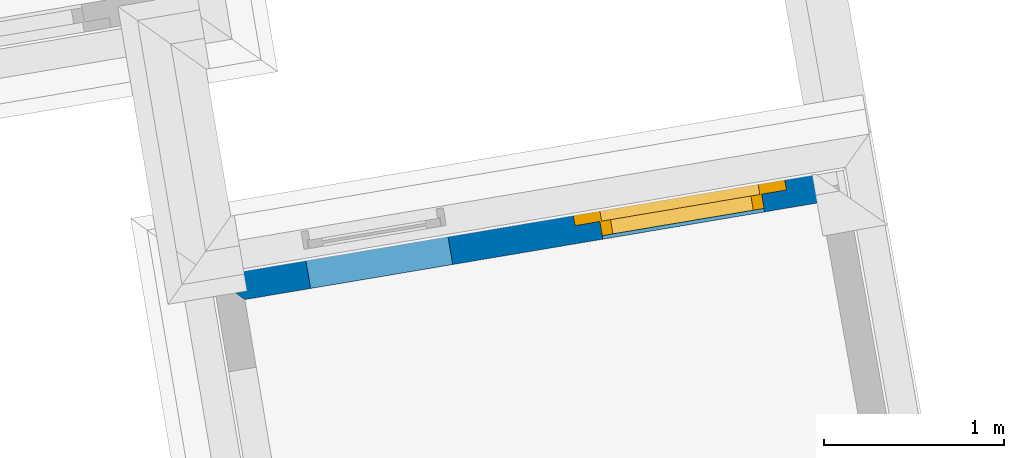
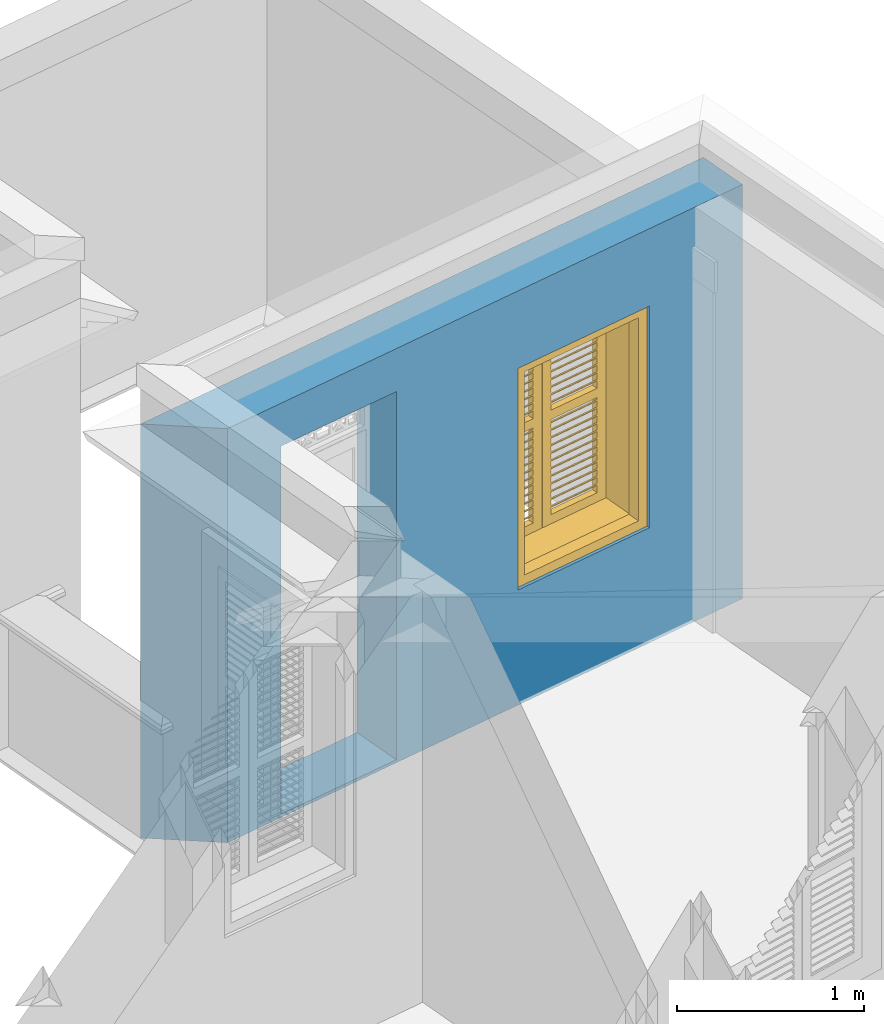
# One storey, part 7 of 12: 1 wall, 1 window, 2 openings.
"""IFC4 building model written with IfcOpenShell, lengths in metres."""

from ifc_helpers import new_model, si_unit, frame, origin, origin_with_axes, place, context, subcontext, project, spatial, polyline, outline, extrude, faceted_brep, source, transform, mapped, material, layer, layer_set, layer_usage, type_object, type_shapes, element, fill, save


model = new_model("IFC4")

# Units and contexts
model_context = context("Model", 3, world=origin_with_axes())
body_context = subcontext(model_context, "Body", "Model", "MODEL_VIEW")
ifc_project = project(units=[si_unit("PLANEANGLEUNIT", "RADIAN"), si_unit("MASSUNIT", "GRAM", prefix="KILO"), si_unit("FORCEUNIT", "NEWTON", prefix="KILO"), si_unit("LENGTHUNIT", "METRE"), si_unit("AREAUNIT", "SQUARE_METRE"), si_unit("VOLUMEUNIT", "CUBIC_METRE")], contexts=[model_context, model_context])

# Site, building, storey
site_placement = place(None, origin_with_axes())
site = spatial("IfcSite", under=ifc_project, at=site_placement, Name="Site plot-6", CompositionType="ELEMENT")
building_placement = place(None, origin_with_axes())
building = spatial("IfcBuilding", under=site, at=building_placement, Name="Building plot-6", CompositionType="ELEMENT")
storey_placement = place(None, frame((0.0, 0.0, 3.6), z_axis=(0.0, 0.0, 1.0), x_axis=(1.0, 0.0, 0.0)))
storey = spatial("IfcBuildingStorey", under=building, at=storey_placement, Name="plot-6 1", CompositionType="ELEMENT", Elevation=3.6)

# Wall, openings, window
ifc_material = material(Name="Masonry")
ifc_layer = layer(ifc_material, 0.33, ventilated=False)
ifc_layer_set = layer_set([ifc_layer], Name="exterior_0.08_0.25")
ifc_layer_usage = layer_usage(ifc_layer_set, "AXIS2", "POSITIVE", -0.25)
wall_type = type_object("IfcWallType", Name="exterior_0.08_0.25", PredefinedType="SOLIDWALL", material=ifc_layer_set)
wall_placement = place(storey_placement, frame((0.605406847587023, 2.3092461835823, 0.0), z_axis=(0.0, 0.0, 1.0), x_axis=(-0.986076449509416, -0.166292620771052, 0.0)))
wall = element("IfcWall", 1, at=wall_placement, inside=storey, type_object=wall_type, material=ifc_layer_usage, Name="exterior", context=body_context, shape_type="SweptSolid", body=[
    extrude(outline(polyline([(-0.25, 0.08), (-0.25, -0.25), (3.64941404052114, -0.25), (3.31941404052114, 0.0800000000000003), (-0.25, 0.08)])), origin_with_axes(), (0.0, 0.0, 1.0), 2.7),
])
opening_1_placement = place(wall_placement, frame((0.394853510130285, 0.0, 0.75)))
opening_1 = element("IfcOpeningElement", 2, at=opening_1_placement, cuts=wall, Name="My Opening", ObjectType="Opening", context=body_context, shape_type="SweptSolid", body=[
    extrude(outline(polyline([(0.0, -0.27), (0.91, -0.27), (0.91, 1.1), (-2.77555756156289e-16, 1.1), (0.0, -0.27)])), origin_with_axes(), (0.0, 0.0, 1.0), 1.445),
])
opening_2_placement = place(wall_placement, frame((2.14956053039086, 0.0, 0.02)))
element("IfcOpeningElement", 3, at=opening_2_placement, cuts=wall, Name="My Opening", ObjectType="Opening", context=body_context, shape_type="SweptSolid", body=[
    extrude(outline(polyline([(0.0, -0.27), (0.8, -0.269999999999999), (0.800000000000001, 1.1), (4.44089209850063e-16, 1.1), (0.0, -0.27)])), origin_with_axes(), (0.0, 0.0, 1.0), 2.4),
])
window_type = type_object("IfcWindowType", Name="shuttered_shorter", PartitioningType="DOUBLE_PANEL_HORIZONTAL", PredefinedType="NOTDEFINED")
shared_shape = source(origin(), body_context, "Body", "Brep", [
    faceted_brep([(0.393, 0.0, 0.622), (0.074, 0.0, 0.622), (0.074, 0.0, 0.632), (0.393, 0.0, 0.632), (0.074, -0.04, 0.592), (0.393, -0.04, 0.592), (0.393, -0.04, 0.582), (0.074, -0.04, 0.582), (0.517, 0.0, 0.682), (0.836, 0.0, 0.682), (0.836, 0.0, 0.672), (0.517, 0.0, 0.672), (0.517, -0.04, 0.642), (0.836, -0.04, 0.642), (0.836, -0.04, 0.632), (0.517, -0.04, 0.632), (0.517, 0.0, 0.632), (0.836, 0.0, 0.632), (0.836, 0.0, 0.622), (0.517, 0.0, 0.622), (0.517, -0.04, 0.592), (0.836, -0.04, 0.592), (0.836, -0.04, 0.582), (0.517, -0.04, 0.582), (0.517, 0.0, 0.232), (0.836, 0.0, 0.232), (0.836, 0.0, 0.222), (0.517, 0.0, 0.222), (0.517, -0.04, 0.192), (0.836, -0.04, 0.192), (0.836, -0.04, 0.182), (0.517, -0.04, 0.182), (0.517, 0.0, 0.532), (0.836, 0.0, 0.532), (0.836, 0.0, 0.522), (0.517, 0.0, 0.522), (0.517, -0.04, 0.492), (0.836, -0.04, 0.492), (0.836, -0.04, 0.482), (0.517, -0.04, 0.482), (0.517, 0.0, 0.482), (0.836, 0.0, 0.482), (0.836, 0.0, 0.472), (0.517, 0.0, 0.472), (0.517, -0.04, 0.442), (0.836, -0.04, 0.442), (0.836, -0.04, 0.432), (0.517, -0.04, 0.432), (0.517, 0.0, 0.582), (0.836, 0.0, 0.582), (0.836, 0.0, 0.572), (0.517, 0.0, 0.572), (0.517, -0.04, 0.542), (0.836, -0.04, 0.542), (0.836, -0.04, 0.532), (0.517, -0.04, 0.532), (0.517, 0.0, 0.182), (0.836, 0.0, 0.182), (0.836, 0.0, 0.172), (0.517, 0.0, 0.172), (0.517, -0.04, 0.142), (0.836, -0.04, 0.142), (0.836, -0.04, 0.132), (0.517, -0.04, 0.132), (0.517, 0.0, 0.382), (0.836, 0.0, 0.382), (0.836, 0.0, 0.372), (0.517, 0.0, 0.372), (0.517, -0.04, 0.342), (0.836, -0.04, 0.342), (0.836, -0.04, 0.332), (0.517, -0.04, 0.332), (0.517, 0.0, 0.432), (0.836, 0.0, 0.432), (0.836, 0.0, 0.422), (0.517, 0.0, 0.422), (0.517, -0.04, 0.392), (0.836, -0.04, 0.392), (0.836, -0.04, 0.382), (0.517, -0.04, 0.382), (0.517, 0.0, 0.132), (0.836, 0.0, 0.132), (0.836, 0.0, 0.122), (0.517, 0.0, 0.122), (0.517, -0.04, 0.092), (0.836, -0.04, 0.092), (0.836, -0.04, 0.082), (0.517, -0.04, 0.082), (0.517, 0.0, 0.282), (0.836, 0.0, 0.282), (0.836, 0.0, 0.272), (0.517, 0.0, 0.272), (0.517, -0.04, 0.242), (0.836, -0.04, 0.242), (0.836, -0.04, 0.232), (0.517, -0.04, 0.232), (0.517, 0.0, 0.332), (0.836, 0.0, 0.332), (0.836, 0.0, 0.322), (0.517, 0.0, 0.322), (0.517, -0.04, 0.292), (0.836, -0.04, 0.292), (0.836, -0.04, 0.282), (0.517, -0.04, 0.282), (0.517, 0.0, 1.362667), (0.836, 0.0, 1.362667), (0.836, 0.0, 1.352667), (0.517, 0.0, 1.352667), (0.517, -0.04, 1.322667), (0.836, -0.04, 1.322667), (0.836, -0.04, 1.312667), (0.517, -0.04, 1.312667), (0.517, 0.0, 1.312667), (0.836, 0.0, 1.312667), (0.836, 0.0, 1.302667), (0.517, 0.0, 1.302667), (0.517, -0.04, 1.272667), (0.836, -0.04, 1.272667), (0.836, -0.04, 1.262667), (0.517, -0.04, 1.262667), (0.517, 0.0, 0.912667), (0.836, 0.0, 0.912667), (0.836, 0.0, 0.902667), (0.517, 0.0, 0.902667), (0.517, -0.04, 0.872667), (0.836, -0.04, 0.872667), (0.836, -0.04, 0.862667), (0.517, -0.04, 0.862667), (0.517, 0.0, 1.212667), (0.836, 0.0, 1.212667), (0.836, 0.0, 1.202667), (0.517, 0.0, 1.202667), (0.517, -0.04, 1.172667), (0.836, -0.04, 1.172667), (0.836, -0.04, 1.162667), (0.517, -0.04, 1.162667), (0.517, 0.0, 1.162667), (0.836, 0.0, 1.162667), (0.836, 0.0, 1.152667), (0.517, 0.0, 1.152667), (0.517, -0.04, 1.122667), (0.836, -0.04, 1.122667), (0.836, -0.04, 1.112667), (0.517, -0.04, 1.112667), (0.517, 0.0, 1.262667), (0.836, 0.0, 1.262667), (0.836, 0.0, 1.252667), (0.517, 0.0, 1.252667), (0.517, -0.04, 1.222667), (0.836, -0.04, 1.222667), (0.836, -0.04, 1.212667), (0.517, -0.04, 1.212667), (0.517, 0.0, 0.862667), (0.836, 0.0, 0.862667), (0.836, 0.0, 0.852667), (0.517, 0.0, 0.852667), (0.517, -0.04, 0.822667), (0.836, -0.04, 0.822667), (0.836, -0.04, 0.812667), (0.517, -0.04, 0.812667), (0.517, 0.0, 1.062667), (0.836, 0.0, 1.062667), (0.836, 0.0, 1.052667), (0.517, 0.0, 1.052667), (0.517, -0.04, 1.022667), (0.836, -0.04, 1.022667), (0.836, -0.04, 1.012667), (0.517, -0.04, 1.012667), (0.517, 0.0, 1.112667), (0.836, 0.0, 1.112667), (0.836, 0.0, 1.102667), (0.517, 0.0, 1.102667), (0.517, -0.04, 1.072667), (0.836, -0.04, 1.072667), (0.836, -0.04, 1.062667), (0.517, -0.04, 1.062667), (0.517, 0.0, 0.812667), (0.836, 0.0, 0.812667), (0.836, 0.0, 0.802667), (0.517, 0.0, 0.802667), (0.517, -0.04, 0.772667), (0.836, -0.04, 0.772667), (0.836, -0.04, 0.762667), (0.517, -0.04, 0.762667), (0.517, 0.0, 0.962667), (0.836, 0.0, 0.962667), (0.836, 0.0, 0.952667), (0.517, 0.0, 0.952667), (0.517, -0.04, 0.922667), (0.836, -0.04, 0.922667), (0.836, -0.04, 0.912667), (0.517, -0.04, 0.912667), (0.517, 0.0, 1.012667), (0.836, 0.0, 1.012667), (0.836, 0.0, 1.002667), (0.517, 0.0, 1.002667), (0.517, -0.04, 0.972667), (0.836, -0.04, 0.972667), (0.836, -0.04, 0.962667), (0.517, -0.04, 0.962667), (0.074, 0.0, 0.682), (0.393, 0.0, 0.682), (0.393, 0.0, 0.672), (0.074, 0.0, 0.672), (0.074, -0.04, 0.642), (0.393, -0.04, 0.642), (0.393, -0.04, 0.632), (0.074, -0.04, 0.632), (0.074, 0.0, 0.232), (0.393, 0.0, 0.232), (0.393, 0.0, 0.222), (0.074, 0.0, 0.222), (0.074, -0.04, 0.192), (0.393, -0.04, 0.192), (0.393, -0.04, 0.182), (0.074, -0.04, 0.182), (0.074, 0.0, 0.532), (0.393, 0.0, 0.532), (0.393, 0.0, 0.522), (0.074, 0.0, 0.522), (0.074, -0.04, 0.492), (0.393, -0.04, 0.492), (0.393, -0.04, 0.482), (0.074, -0.04, 0.482), (0.074, 0.0, 0.482), (0.393, 0.0, 0.482), (0.393, 0.0, 0.472), (0.074, 0.0, 0.472), (0.074, -0.04, 0.442), (0.393, -0.04, 0.442), (0.393, -0.04, 0.432), (0.074, -0.04, 0.432), (0.074, 0.0, 0.582), (0.393, 0.0, 0.582), (0.393, 0.0, 0.572), (0.074, 0.0, 0.572), (0.074, -0.04, 0.542), (0.393, -0.04, 0.542), (0.393, -0.04, 0.532), (0.074, -0.04, 0.532), (0.074, 0.0, 0.182), (0.393, 0.0, 0.182), (0.393, 0.0, 0.172), (0.074, 0.0, 0.172), (0.074, -0.04, 0.142), (0.393, -0.04, 0.142), (0.393, -0.04, 0.132), (0.074, -0.04, 0.132), (0.074, 0.0, 0.382), (0.393, 0.0, 0.382), (0.393, 0.0, 0.372), (0.074, 0.0, 0.372), (0.074, -0.04, 0.342), (0.393, -0.04, 0.342), (0.393, -0.04, 0.332), (0.074, -0.04, 0.332), (0.074, 0.0, 0.432), (0.393, 0.0, 0.432), (0.393, 0.0, 0.422), (0.074, 0.0, 0.422), (0.074, -0.04, 0.392), (0.393, -0.04, 0.392), (0.393, -0.04, 0.382), (0.074, -0.04, 0.382), (0.074, 0.0, 0.132), (0.393, 0.0, 0.132), (0.393, 0.0, 0.122), (0.074, 0.0, 0.122), (0.074, -0.04, 0.092), (0.393, -0.04, 0.092), (0.393, -0.04, 0.082), (0.074, -0.04, 0.082), (0.074, 0.0, 0.282), (0.393, 0.0, 0.282), (0.393, 0.0, 0.272), (0.074, 0.0, 0.272), (0.074, -0.04, 0.242), (0.393, -0.04, 0.242), (0.393, -0.04, 0.232), (0.074, -0.04, 0.232), (0.074, 0.0, 0.332), (0.393, 0.0, 0.332), (0.393, 0.0, 0.322), (0.074, 0.0, 0.322), (0.074, -0.04, 0.292), (0.393, -0.04, 0.292), (0.393, -0.04, 0.282), (0.074, -0.04, 0.282), (0.074, 0.0, 1.362667), (0.393, 0.0, 1.362667), (0.393, 0.0, 1.352667), (0.074, 0.0, 1.352667), (0.074, -0.04, 1.322667), (0.393, -0.04, 1.322667), (0.393, -0.04, 1.312667), (0.074, -0.04, 1.312667), (0.074, 0.0, 1.312667), (0.393, 0.0, 1.312667), (0.393, 0.0, 1.302667), (0.074, 0.0, 1.302667), (0.074, -0.04, 1.272667), (0.393, -0.04, 1.272667), (0.393, -0.04, 1.262667), (0.074, -0.04, 1.262667), (0.074, 0.0, 0.912667), (0.393, 0.0, 0.912667), (0.393, 0.0, 0.902667), (0.074, 0.0, 0.902667), (0.074, -0.04, 0.872667), (0.393, -0.04, 0.872667), (0.393, -0.04, 0.862667), (0.074, -0.04, 0.862667), (0.074, 0.0, 1.212667), (0.393, 0.0, 1.212667), (0.393, 0.0, 1.202667), (0.074, 0.0, 1.202667), (0.074, -0.04, 1.172667), (0.393, -0.04, 1.172667), (0.393, -0.04, 1.162667), (0.074, -0.04, 1.162667), (0.074, 0.0, 1.162667), (0.393, 0.0, 1.162667), (0.393, 0.0, 1.152667), (0.074, 0.0, 1.152667), (0.074, -0.04, 1.122667), (0.393, -0.04, 1.122667), (0.393, -0.04, 1.112667), (0.074, -0.04, 1.112667), (0.074, 0.0, 1.262667), (0.393, 0.0, 1.262667), (0.393, 0.0, 1.252667), (0.074, 0.0, 1.252667), (0.074, -0.04, 1.222667), (0.393, -0.04, 1.222667), (0.393, -0.04, 1.212667), (0.074, -0.04, 1.212667), (0.074, 0.0, 0.862667), (0.393, 0.0, 0.862667), (0.393, 0.0, 0.852667), (0.074, 0.0, 0.852667), (0.074, -0.04, 0.822667), (0.393, -0.04, 0.822667), (0.393, -0.04, 0.812667), (0.074, -0.04, 0.812667), (0.074, 0.0, 1.062667), (0.393, 0.0, 1.062667), (0.393, 0.0, 1.052667), (0.074, 0.0, 1.052667), (0.074, -0.04, 1.022667), (0.393, -0.04, 1.022667), (0.393, -0.04, 1.012667), (0.074, -0.04, 1.012667), (0.074, 0.0, 1.112667), (0.393, 0.0, 1.112667), (0.393, 0.0, 1.102667), (0.074, 0.0, 1.102667), (0.074, -0.04, 1.072667), (0.393, -0.04, 1.072667), (0.393, -0.04, 1.062667), (0.074, -0.04, 1.062667), (0.074, 0.0, 0.812667), (0.393, 0.0, 0.812667), (0.393, 0.0, 0.802667), (0.074, 0.0, 0.802667), (0.074, -0.04, 0.772667), (0.393, -0.04, 0.772667), (0.393, -0.04, 0.762667), (0.074, -0.04, 0.762667), (0.074, 0.0, 0.962667), (0.393, 0.0, 0.962667), (0.393, 0.0, 0.952667), (0.074, 0.0, 0.952667), (0.074, -0.04, 0.922667), (0.393, -0.04, 0.922667), (0.393, -0.04, 0.912667), (0.074, -0.04, 0.912667), (0.074, 0.0, 1.012667), (0.393, 0.0, 1.012667), (0.393, 0.0, 1.002667), (0.074, 0.0, 1.002667), (0.074, -0.04, 0.972667), (0.393, -0.04, 0.972667), (0.393, -0.04, 0.962667), (0.074, -0.04, 0.962667), (0.517, -0.04, 0.072), (0.457, -0.04, 0.012), (0.896, -0.04, 0.012), (0.836, -0.04, 0.072), (0.457, -0.04, 0.692667), (0.517, -0.04, 0.692667), (0.457, 0.0, 0.012), (0.896, 0.0, 0.012), (0.836, -0.04, 0.692667), (0.896, -0.04, 0.692667), (0.836, 0.0, 0.072), (0.517, 0.0, 0.072), (0.457, 0.0, 0.692667), (0.517, 0.0, 0.692667), (0.517, -0.04, 0.752666), (0.457, -0.04, 0.752666), (0.896, 0.0, 0.692667), (0.836, 0.0, 0.692667), (0.836, -0.04, 0.752666), (0.896, -0.04, 0.752666), (0.457, 0.0, 0.752666), (0.457, -0.04, 1.433333), (0.517, -0.04, 1.373333), (0.896, 0.0, 0.752666), (0.836, -0.04, 1.373333), (0.896, -0.04, 1.433333), (0.457, 0.0, 1.433333), (0.517, 0.0, 0.752666), (0.836, 0.0, 0.752666), (0.517, 0.0, 1.373333), (0.896, 0.0, 1.433333), (0.836, 0.0, 1.373333), (0.074, -0.04, 0.072), (0.014, -0.04, 0.012), (0.453, -0.04, 0.012), (0.393, -0.04, 0.072), (0.014, -0.04, 0.692667), (0.074, -0.04, 0.692667), (0.014, 0.0, 0.012), (0.453, 0.0, 0.012), (0.393, -0.04, 0.692667), (0.453, -0.04, 0.692667), (0.393, 0.0, 0.072), (0.074, 0.0, 0.072), (0.014, 0.0, 0.692667), (0.074, 0.0, 0.692667), (0.074, -0.04, 0.752666), (0.014, -0.04, 0.752666), (0.453, 0.0, 0.692667), (0.393, 0.0, 0.692667), (0.393, -0.04, 0.752666), (0.453, -0.04, 0.752666), (0.014, 0.0, 0.752666), (0.014, -0.04, 1.433333), (0.074, -0.04, 1.373333), (0.453, 0.0, 0.752666), (0.393, -0.04, 1.373333), (0.453, -0.04, 1.433333), (0.014, 0.0, 1.433333), (0.074, 0.0, 0.752666), (0.393, 0.0, 0.752666), (0.074, 0.0, 1.373333), (0.453, 0.0, 1.433333), (0.393, 0.0, 1.373333), (0.0, 0.33, 1.445), (0.91, 0.33, 1.445), (0.85, 0.33, 1.385), (0.06, 0.33, 1.385), (0.91, 0.25, 1.445), (0.0, 0.25, 1.445), (0.91, 0.25, 1.445), (0.85, 0.33, 0.06), (0.91, 0.33, 0.0), (0.85, 0.25, 1.385), (0.06, 0.25, 1.385), (0.0, 0.33, 0.0), (0.06, 0.33, 0.06), (0.0, 0.25, 0.0), (0.91, 0.25, 0.0), (0.85, 0.25, 0.06), (0.06, 0.25, 0.06), (1.05, 0.25, 1.585), (-0.14, 0.25, 1.585), (-0.14, -0.03, 1.585), (1.05, -0.03, 1.585), (0.9, -0.03, 1.435), (0.01, -0.03, 1.435), (0.01, 0.25, 1.435), (0.9, 0.25, 1.435), (0.9, 0.25, 0.01), (0.9, -0.03, 0.01), (1.05, -0.03, -0.14), (1.05, 0.25, -0.14), (0.01, -0.03, 0.01), (0.01, 0.25, 0.01), (-0.14, -0.03, -0.14), (-0.14, 0.25, -0.14)], [[[0, 1, 2, 3]], [[4, 5, 3, 2]], [[5, 6, 0, 3]], [[1, 0, 6, 7]], [[2, 1, 7, 4]], [[5, 4, 7, 6]], [[8, 9, 10, 11]], [[12, 13, 9, 8]], [[13, 14, 10, 9]], [[14, 15, 11, 10]], [[15, 12, 8, 11]], [[13, 12, 15, 14]], [[16, 17, 18, 19]], [[20, 21, 17, 16]], [[21, 22, 18, 17]], [[22, 23, 19, 18]], [[23, 20, 16, 19]], [[21, 20, 23, 22]], [[24, 25, 26, 27]], [[28, 29, 25, 24]], [[29, 30, 26, 25]], [[30, 31, 27, 26]], [[31, 28, 24, 27]], [[29, 28, 31, 30]], [[32, 33, 34, 35]], [[36, 37, 33, 32]], [[37, 38, 34, 33]], [[38, 39, 35, 34]], [[39, 36, 32, 35]], [[37, 36, 39, 38]], [[40, 41, 42, 43]], [[44, 45, 41, 40]], [[45, 46, 42, 41]], [[46, 47, 43, 42]], [[47, 44, 40, 43]], [[45, 44, 47, 46]], [[48, 49, 50, 51]], [[52, 53, 49, 48]], [[53, 54, 50, 49]], [[54, 55, 51, 50]], [[55, 52, 48, 51]], [[53, 52, 55, 54]], [[56, 57, 58, 59]], [[60, 61, 57, 56]], [[61, 62, 58, 57]], [[62, 63, 59, 58]], [[63, 60, 56, 59]], [[61, 60, 63, 62]], [[64, 65, 66, 67]], [[68, 69, 65, 64]], [[69, 70, 66, 65]], [[70, 71, 67, 66]], [[71, 68, 64, 67]], [[69, 68, 71, 70]], [[72, 73, 74, 75]], [[76, 77, 73, 72]], [[77, 78, 74, 73]], [[78, 79, 75, 74]], [[79, 76, 72, 75]], [[77, 76, 79, 78]], [[80, 81, 82, 83]], [[84, 85, 81, 80]], [[85, 86, 82, 81]], [[86, 87, 83, 82]], [[87, 84, 80, 83]], [[85, 84, 87, 86]], [[88, 89, 90, 91]], [[92, 93, 89, 88]], [[93, 94, 90, 89]], [[94, 95, 91, 90]], [[95, 92, 88, 91]], [[93, 92, 95, 94]], [[96, 97, 98, 99]], [[100, 101, 97, 96]], [[101, 102, 98, 97]], [[102, 103, 99, 98]], [[103, 100, 96, 99]], [[101, 100, 103, 102]], [[104, 105, 106, 107]], [[108, 109, 105, 104]], [[109, 110, 106, 105]], [[110, 111, 107, 106]], [[111, 108, 104, 107]], [[109, 108, 111, 110]], [[112, 113, 114, 115]], [[116, 117, 113, 112]], [[117, 118, 114, 113]], [[118, 119, 115, 114]], [[119, 116, 112, 115]], [[117, 116, 119, 118]], [[120, 121, 122, 123]], [[124, 125, 121, 120]], [[125, 126, 122, 121]], [[126, 127, 123, 122]], [[127, 124, 120, 123]], [[125, 124, 127, 126]], [[128, 129, 130, 131]], [[132, 133, 129, 128]], [[133, 134, 130, 129]], [[134, 135, 131, 130]], [[135, 132, 128, 131]], [[133, 132, 135, 134]], [[136, 137, 138, 139]], [[140, 141, 137, 136]], [[141, 142, 138, 137]], [[142, 143, 139, 138]], [[139, 143, 140, 136]], [[141, 140, 143, 142]], [[144, 145, 146, 147]], [[148, 149, 145, 144]], [[149, 150, 146, 145]], [[150, 151, 147, 146]], [[151, 148, 144, 147]], [[149, 148, 151, 150]], [[152, 153, 154, 155]], [[156, 157, 153, 152]], [[157, 158, 154, 153]], [[158, 159, 155, 154]], [[159, 156, 152, 155]], [[157, 156, 159, 158]], [[160, 161, 162, 163]], [[164, 165, 161, 160]], [[165, 166, 162, 161]], [[166, 167, 163, 162]], [[167, 164, 160, 163]], [[165, 164, 167, 166]], [[168, 169, 170, 171]], [[172, 173, 169, 168]], [[173, 174, 170, 169]], [[174, 175, 171, 170]], [[175, 172, 168, 171]], [[173, 172, 175, 174]], [[176, 177, 178, 179]], [[180, 181, 177, 176]], [[181, 182, 178, 177]], [[182, 183, 179, 178]], [[183, 180, 176, 179]], [[181, 180, 183, 182]], [[184, 185, 186, 187]], [[188, 189, 185, 184]], [[189, 190, 186, 185]], [[190, 191, 187, 186]], [[191, 188, 184, 187]], [[189, 188, 191, 190]], [[192, 193, 194, 195]], [[196, 197, 193, 192]], [[197, 198, 194, 193]], [[198, 199, 195, 194]], [[199, 196, 192, 195]], [[197, 196, 199, 198]], [[200, 201, 202, 203]], [[204, 205, 201, 200]], [[205, 206, 202, 201]], [[206, 207, 203, 202]], [[207, 204, 200, 203]], [[205, 204, 207, 206]], [[208, 209, 210, 211]], [[212, 213, 209, 208]], [[213, 214, 210, 209]], [[214, 215, 211, 210]], [[215, 212, 208, 211]], [[213, 212, 215, 214]], [[216, 217, 218, 219]], [[220, 221, 217, 216]], [[221, 222, 218, 217]], [[222, 223, 219, 218]], [[223, 220, 216, 219]], [[221, 220, 223, 222]], [[224, 225, 226, 227]], [[228, 229, 225, 224]], [[229, 230, 226, 225]], [[230, 231, 227, 226]], [[231, 228, 224, 227]], [[229, 228, 231, 230]], [[232, 233, 234, 235]], [[236, 237, 233, 232]], [[237, 238, 234, 233]], [[238, 239, 235, 234]], [[239, 236, 232, 235]], [[237, 236, 239, 238]], [[240, 241, 242, 243]], [[244, 245, 241, 240]], [[245, 246, 242, 241]], [[246, 247, 243, 242]], [[247, 244, 240, 243]], [[245, 244, 247, 246]], [[248, 249, 250, 251]], [[252, 253, 249, 248]], [[253, 254, 250, 249]], [[254, 255, 251, 250]], [[255, 252, 248, 251]], [[253, 252, 255, 254]], [[256, 257, 258, 259]], [[260, 261, 257, 256]], [[261, 262, 258, 257]], [[262, 263, 259, 258]], [[263, 260, 256, 259]], [[261, 260, 263, 262]], [[264, 265, 266, 267]], [[268, 269, 265, 264]], [[269, 270, 266, 265]], [[270, 271, 267, 266]], [[271, 268, 264, 267]], [[269, 268, 271, 270]], [[272, 273, 274, 275]], [[276, 277, 273, 272]], [[277, 278, 274, 273]], [[278, 279, 275, 274]], [[279, 276, 272, 275]], [[277, 276, 279, 278]], [[280, 281, 282, 283]], [[284, 285, 281, 280]], [[285, 286, 282, 281]], [[286, 287, 283, 282]], [[287, 284, 280, 283]], [[285, 284, 287, 286]], [[288, 289, 290, 291]], [[292, 293, 289, 288]], [[293, 294, 290, 289]], [[294, 295, 291, 290]], [[295, 292, 288, 291]], [[293, 292, 295, 294]], [[296, 297, 298, 299]], [[300, 301, 297, 296]], [[301, 302, 298, 297]], [[302, 303, 299, 298]], [[303, 300, 296, 299]], [[301, 300, 303, 302]], [[304, 305, 306, 307]], [[308, 309, 305, 304]], [[309, 310, 306, 305]], [[310, 311, 307, 306]], [[311, 308, 304, 307]], [[309, 308, 311, 310]], [[312, 313, 314, 315]], [[316, 317, 313, 312]], [[317, 318, 314, 313]], [[318, 319, 315, 314]], [[319, 316, 312, 315]], [[317, 316, 319, 318]], [[320, 321, 322, 323]], [[324, 325, 321, 320]], [[325, 326, 322, 321]], [[326, 327, 323, 322]], [[327, 324, 320, 323]], [[325, 324, 327, 326]], [[328, 329, 330, 331]], [[332, 333, 329, 328]], [[333, 334, 330, 329]], [[334, 335, 331, 330]], [[335, 332, 328, 331]], [[333, 332, 335, 334]], [[336, 337, 338, 339]], [[340, 341, 337, 336]], [[341, 342, 338, 337]], [[342, 343, 339, 338]], [[343, 340, 336, 339]], [[341, 340, 343, 342]], [[344, 345, 346, 347]], [[348, 349, 345, 344]], [[349, 350, 346, 345]], [[350, 351, 347, 346]], [[351, 348, 344, 347]], [[349, 348, 351, 350]], [[352, 353, 354, 355]], [[356, 357, 353, 352]], [[357, 358, 354, 353]], [[358, 359, 355, 354]], [[359, 356, 352, 355]], [[357, 356, 359, 358]], [[360, 361, 362, 363]], [[364, 365, 361, 360]], [[365, 366, 362, 361]], [[366, 367, 363, 362]], [[367, 364, 360, 363]], [[365, 364, 367, 366]], [[368, 369, 370, 371]], [[372, 373, 369, 368]], [[373, 374, 370, 369]], [[374, 375, 371, 370]], [[375, 372, 368, 371]], [[373, 372, 375, 374]], [[376, 377, 378, 379]], [[380, 381, 377, 376]], [[381, 382, 378, 377]], [[382, 383, 379, 378]], [[383, 380, 376, 379]], [[381, 380, 383, 382]], [[384, 385, 386, 387]], [[388, 385, 384, 389]], [[390, 391, 386, 385]], [[392, 387, 386, 393]], [[384, 387, 394, 395]], [[390, 385, 388, 396]], [[389, 384, 395, 397]], [[389, 398, 399, 388]], [[390, 395, 394, 391]], [[400, 393, 386, 391]], [[387, 392, 401, 394]], [[402, 392, 393, 403]], [[396, 388, 399, 404]], [[390, 396, 397, 395]], [[392, 389, 397, 401]], [[398, 389, 392, 402]], [[405, 399, 398, 406]], [[394, 401, 400, 391]], [[407, 403, 393, 400]], [[408, 402, 403, 409]], [[404, 399, 405, 410]], [[411, 397, 396, 404]], [[397, 411, 412, 401]], [[398, 402, 412, 411]], [[406, 398, 411, 413]], [[405, 406, 408, 409]], [[401, 412, 407, 400]], [[414, 409, 403, 407]], [[402, 408, 415, 412]], [[405, 409, 414, 410]], [[404, 410, 413, 411]], [[408, 406, 413, 415]], [[412, 415, 414, 407]], [[413, 410, 414, 415]], [[416, 417, 418, 419]], [[420, 417, 416, 421]], [[422, 423, 418, 417]], [[424, 419, 418, 425]], [[416, 419, 426, 427]], [[422, 417, 420, 428]], [[421, 416, 427, 429]], [[421, 430, 431, 420]], [[422, 427, 426, 423]], [[432, 425, 418, 423]], [[419, 424, 433, 426]], [[434, 424, 425, 435]], [[428, 420, 431, 436]], [[422, 428, 429, 427]], [[424, 421, 429, 433]], [[430, 421, 424, 434]], [[437, 431, 430, 438]], [[426, 433, 432, 423]], [[439, 435, 425, 432]], [[440, 434, 435, 441]], [[436, 431, 437, 442]], [[443, 429, 428, 436]], [[429, 443, 444, 433]], [[430, 434, 444, 443]], [[438, 430, 443, 445]], [[437, 438, 440, 441]], [[433, 444, 439, 432]], [[446, 441, 435, 439]], [[434, 440, 447, 444]], [[437, 441, 446, 442]], [[436, 442, 445, 443]], [[440, 438, 445, 447]], [[444, 447, 446, 439]], [[445, 442, 446, 447]], [[448, 449, 450, 451]], [[452, 449, 448]], [[448, 453, 454]], [[448, 454, 452]], [[455, 450, 449, 456]], [[451, 450, 457, 458]], [[459, 448, 451, 460]], [[448, 459, 461, 453]], [[454, 453, 458, 457]], [[462, 452, 454]], [[454, 457, 463]], [[454, 463, 462]], [[456, 449, 452, 462]], [[450, 455, 463, 457]], [[456, 459, 460, 455]], [[460, 451, 458, 464]], [[459, 456, 462, 461]], [[464, 458, 453, 461]], [[461, 462, 463, 464]], [[455, 460, 464, 463]], [[465, 466, 467, 468]], [[469, 470, 471, 472]], [[473, 474, 469, 472]], [[465, 468, 475, 476]], [[470, 477, 478, 471]], [[474, 473, 478, 477]], [[474, 477, 479, 475]], [[470, 467, 479, 477]], [[470, 469, 468, 467]], [[474, 475, 468, 469]], [[471, 478, 480, 466]], [[473, 472, 465, 476]], [[473, 476, 480, 478]], [[466, 465, 472, 471]], [[480, 476, 475, 479]], [[480, 479, 467, 466]]]),
])
type_shapes(window_type, [shared_shape])
window_placement = place(storey_placement, frame((0.171152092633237, 2.50982559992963, 0.75), z_axis=(0.0, 0.0, 1.0), x_axis=(-0.897329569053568, -0.151326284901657, 0.0)))
window = element("IfcWindow", 4, at=window_placement, inside=storey, type_object=window_type, Name="bedroom sahn window", OverallHeight=1.445, OverallWidth=0.91, context=body_context, shape_type="MappedRepresentation", body=[
    mapped(shared_shape, transform((0.0, 0.0, 0.0), scale=1.0)),
])
fill(opening_1, window)

save(model, "model.ifc")
